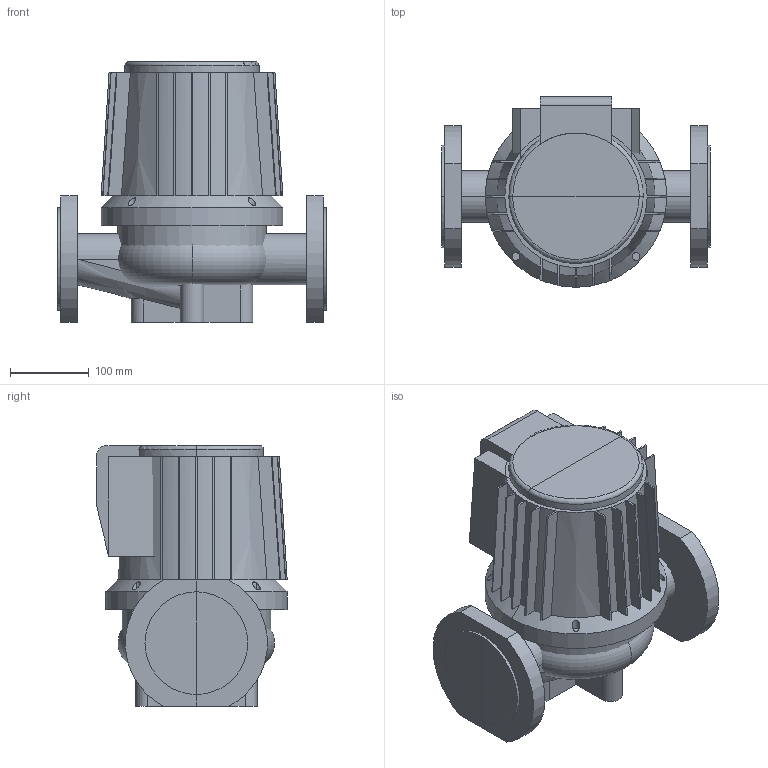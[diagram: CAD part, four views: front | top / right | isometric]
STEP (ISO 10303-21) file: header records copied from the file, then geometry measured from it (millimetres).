
FILE_DESCRIPTION(/* description */ (''),/* implementation_level */ '2;1');
FILE_NAME(/* name */ 'C:\Users\a.zyazeva\Desktop\Wellmix\TG TD WRE WRS\WRS 65-110 F (380 В).stp',/* time_stamp */ '2024-08-28T00:50:55+03:00',/* author */ ('a.zyazeva'),/* organization */ (''),/* preprocessor_version */ 'ST-DEVELOPER v18.1',/* originating_system */ 'Autodesk Inventor 2022',/* authorisation */ '');
FILE_SCHEMA (('AUTOMOTIVE_DESIGN { 1 0 10303 214 3 1 1 }'));
Length unit declared in the file: millimetre
Products named in the file (1): WRS 65-110 F (380 В)
Bounding box: 340 x 241 x 330 mm (x, y, z)
Volume: 13804806.5 mm3; surface area: 837293.9 mm2
Topology: 6 solids, 6 shells, 171 faces, 421 edges, 263 vertices
Faces by surface type: plane 103, cylinder 30, cone 17, bspline 16, torus 5
Entity records: 6343 total; most frequent: CARTESIAN_POINT 2494, ORIENTED_EDGE 842, DIRECTION 712, EDGE_CURVE 421, VERTEX_POINT 263, AXIS2_PLACEMENT_3D 254, LINE 204, VECTOR 204
